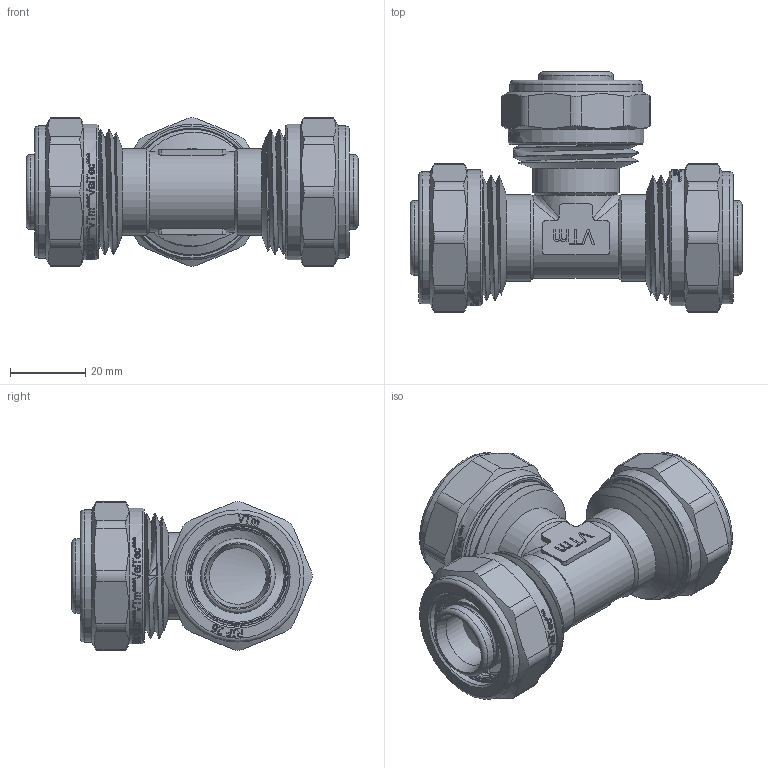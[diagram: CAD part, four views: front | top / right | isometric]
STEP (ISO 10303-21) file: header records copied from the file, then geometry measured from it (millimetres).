
FILE_DESCRIPTION(/* description */ (''),/* implementation_level */ '2;1');
FILE_NAME(/* name */ 'E:\Артём\00000\Работа удаленка\Обжимные фитинги\VTm.331.N.262626.stp',/* time_stamp */ '2020-06-30T13:09:12+03:00',/* author */ ('BeN_GaN'),/* organization */ (''),/* preprocessor_version */ 'ST-DEVELOPER v18',/* originating_system */ 'Autodesk Inventor 2020',/* authorisation */ '');
FILE_SCHEMA (('AUTOMOTIVE_DESIGN { 1 0 10303 214 3 1 1 }'));
Length unit declared in the file: millimetre
Products named in the file (1): VTm.331.N.262626
Bounding box: 88 x 63.69 x 39.39 mm (x, y, z)
Volume: 55008.8 mm3; surface area: 42646.4 mm2
Topology: 4 solids, 4 shells, 2056 faces, 5853 edges, 3960 vertices
Faces by surface type: bspline 1136, plane 550, cylinder 250, torus 72, cone 48
Full cylindrical faces by diameter (mm): 15 x2, 17.4 x6, 19.8 x15, 23 x3, 24.516 x12, 25.435 x15, 26.2 x3, 26.7 x3, 28.5 x3, 28.7 x12, 30.5 x6, 33.3 x4, 35 x3, 36 x3
Entity records: 90284 total; most frequent: CARTESIAN_POINT 44050, ORIENTED_EDGE 11710, DIRECTION 6037, EDGE_CURVE 5855, VERTEX_POINT 3962, B_SPLINE_CURVE_WITH_KNOTS 2485, LINE 2449, VECTOR 2449
